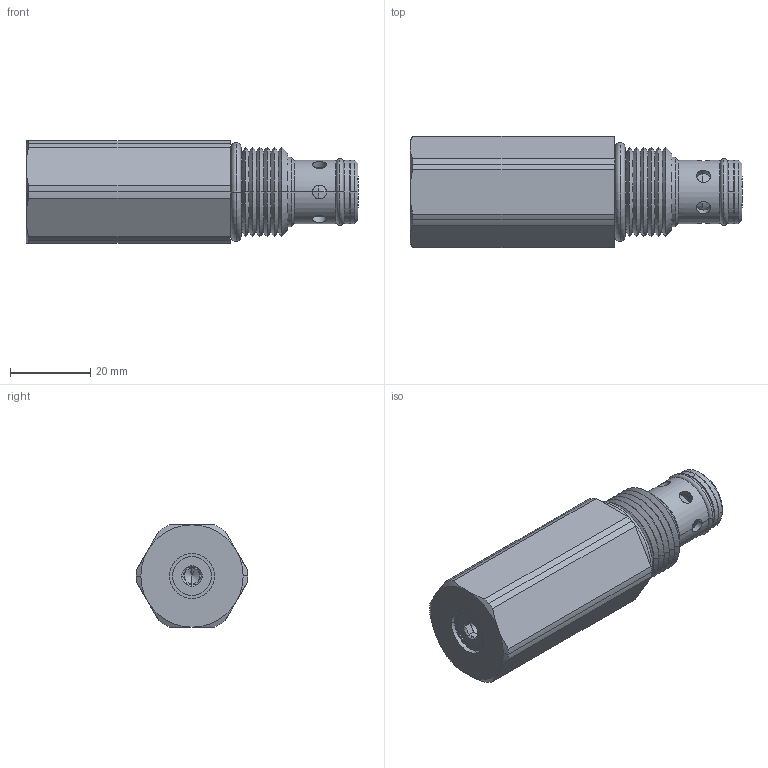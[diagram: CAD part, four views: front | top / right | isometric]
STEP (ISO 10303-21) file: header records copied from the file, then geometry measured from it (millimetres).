
FILE_DESCRIPTION((''),'2;1');
FILE_NAME('U:\Solid model CD\Solid model full\Mechanical\STEP\DERWD0I-3D Full.stp','2008-07-29T09:02:15',('Dan'),(''),'Autodesk Inventor 9','Autodesk Inventor 9','');
FILE_SCHEMA(('AUTOMOTIVE_DESIGN { 1 0 10303 214 1 1 1 1 }'));
Length unit declared in the file: inch
Products named in the file (5): DERWD0I-3D Full; DERWD0I-3D Full1; DERWD0I-3D Full2; DERWD0I-3D Full3; DERWD0I-3D Full4
Assembly tree (4 placements, depth 2):
  DERWD0I-3D Full
    DERWD0I-3D Full1
    DERWD0I-3D Full2
    DERWD0I-3D Full3
    DERWD0I-3D Full4
Bounding box: 82.5 x 27.69 x 25.4 mm (x, y, z)
Volume: 35847.6 mm3; surface area: 9456.6 mm2
Topology: 4 solids, 4 shells, 138 faces, 326 edges, 197 vertices
Faces by surface type: cylinder 54, cone 48, plane 28, torus 8
Entity records: 4444 total; most frequent: CARTESIAN_POINT 1128, DIRECTION 706, ORIENTED_EDGE 648, EDGE_CURVE 324, AXIS2_PLACEMENT_3D 291, VERTEX_POINT 197, EDGE_LOOP 161, CIRCLE 144
